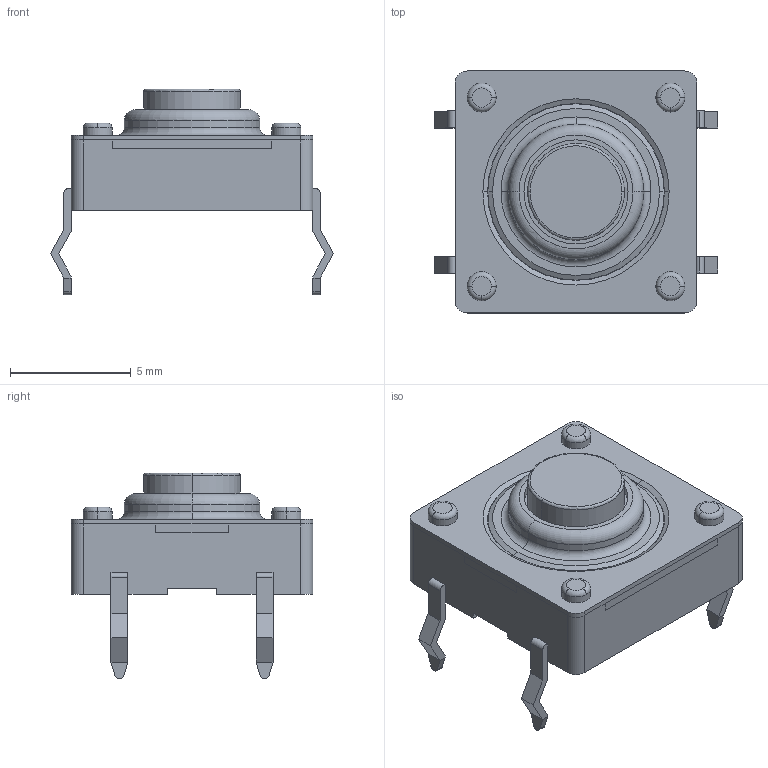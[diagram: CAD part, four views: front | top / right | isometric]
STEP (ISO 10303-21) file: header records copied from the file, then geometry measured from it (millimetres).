
FILE_DESCRIPTION (( 'STEP AP214' ), '1' );
FILE_NAME ('SKQBAR.STEP', '2011-06-15T07:49:07', ( '' ), ( '' ), 'SwSTEP 2.0', 'SolidWorks 2007', '' );
FILE_SCHEMA (( 'AUTOMOTIVE_DESIGN' ));
Length unit declared in the file: millimetre
Products named in the file (1): SKQBAR
Bounding box: 11.7 x 10 x 8.5 mm (x, y, z)
Volume: 345.4 mm3; surface area: 395.9 mm2
Topology: 1 solids, 1 shells, 131 faces, 329 edges, 208 vertices
Faces by surface type: plane 74, cylinder 34, torus 19, cone 4
Entity records: 5520 total; most frequent: CARTESIAN_POINT 835, DIRECTION 696, ORIENTED_EDGE 658, EDGE_CURVE 329, AXIS2_PLACEMENT_3D 239, VECTOR 218, LINE 218, VERTEX_POINT 208
